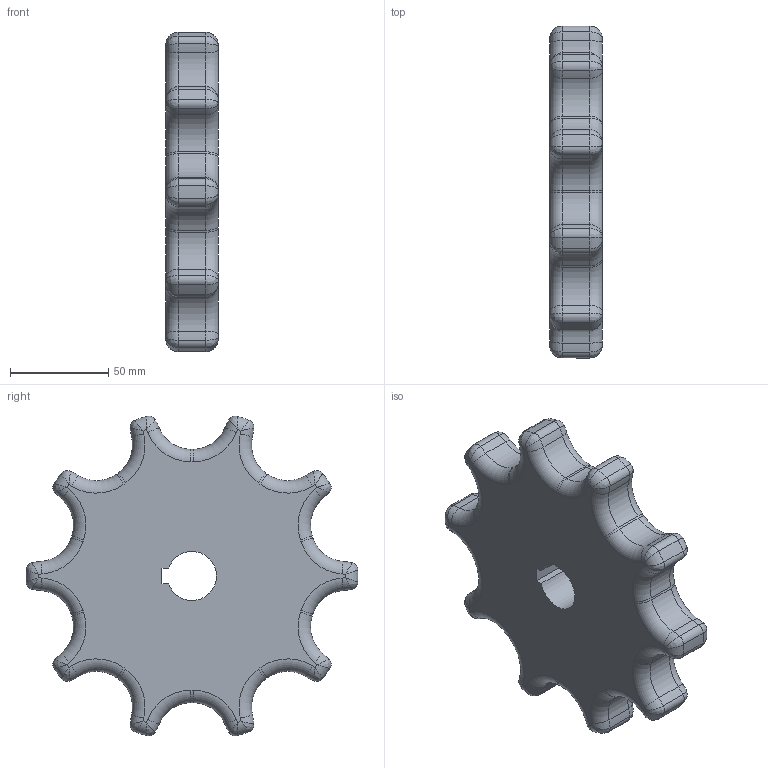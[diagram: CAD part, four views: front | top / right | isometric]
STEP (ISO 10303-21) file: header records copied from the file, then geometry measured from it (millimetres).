
FILE_DESCRIPTION((''),'2;1');
FILE_NAME('S3000_SPROCKET_65X1-1_4_RND','2008-12-12T',('jmumphre'),(''),'PRO/ENGINEER BY PARAMETRIC TECHNOLOGY CORPORATION, 2008150','PRO/ENGINEER BY PARAMETRIC TECHNOLOGY CORPORATION, 2008150','');
FILE_SCHEMA(('CONFIG_CONTROL_DESIGN'));
Length unit declared in the file: inch
Products named in the file (1): S3000_SPROCKET_65X1-1_4_RND
Bounding box: 26.8 x 169.03 x 162.87 mm (x, y, z)
Volume: 419854.3 mm3; surface area: 48968.5 mm2
Topology: 1 solids, 1 shells, 246 faces, 532 edges, 288 vertices
Faces by surface type: torus 100, cylinder 91, bspline 40, plane 15
Entity records: 9142 total; most frequent: CARTESIAN_POINT 3886, DIRECTION 1186, ORIENTED_EDGE 1064, EDGE_CURVE 532, AXIS2_PLACEMENT_3D 528, CIRCLE 322, VERTEX_POINT 288, EDGE_LOOP 248
